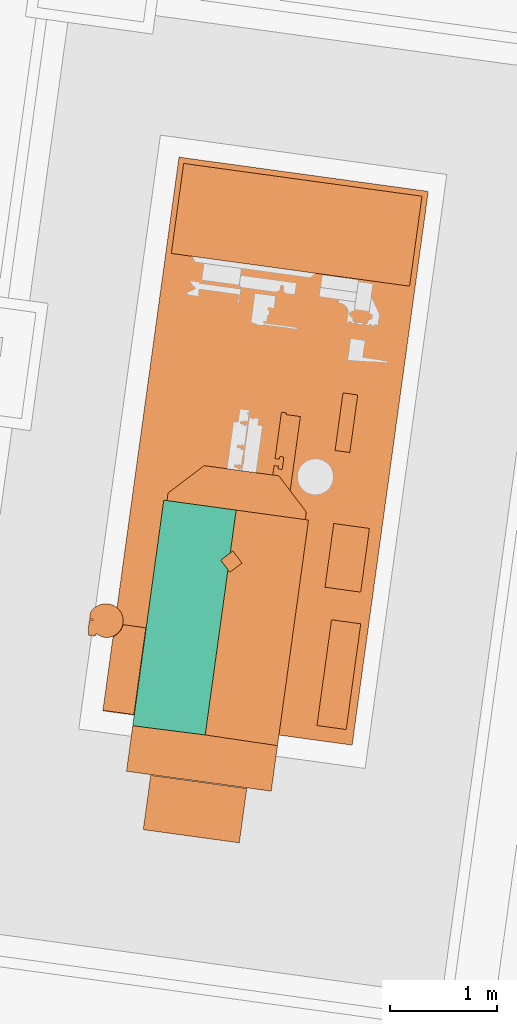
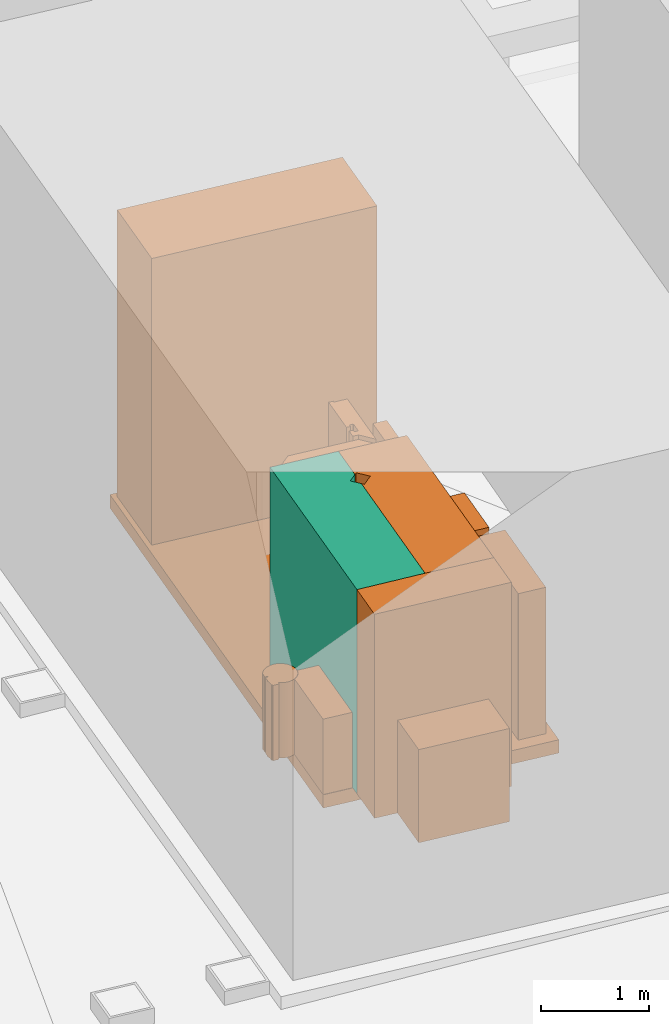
# Not in any storey, part 48 of 75: 12 proxies, 1 compressor.
"""IFC4 model written with IfcOpenShell, lengths in metres."""

from ifc_helpers import new_model, si_unit, direction, origin_with_axes, place, context, subcontext, project, spatial, triangles, element, aggregate, save


model = new_model("IFC4")

# Units and contexts
model_context = context("Model", 3, precision=1e-05, world=origin_with_axes(), true_north=direction((0.0, 1.0)))
body_context = subcontext(model_context, "Body", "Model", "MODEL_VIEW")
ifc_project = project(units=[si_unit("AREAUNIT", "SQUARE_METRE"), si_unit("VOLUMEUNIT", "CUBIC_METRE"), si_unit("LENGTHUNIT", "METRE")], contexts=[model_context])

# Site
site_placement = place(None, origin_with_axes())
site = spatial("IfcSite", under=ifc_project, at=site_placement, Name="Parcela industrial Jinhong")

# Compressor, proxies
compressor_placement = place(site_placement, origin_with_axes())
compressor = element("IfcCompressor", 1, at=compressor_placement, inside=site, Name="Compresor de aire AC1001A · Carcasa principal · región CAD 1", ObjectType="Envolvente de equipo", PredefinedType="USERDEFINED", context=body_context, shape_type="Tessellation", body=[
    triangles([(49.52282, 73.229642, 3.95), (48.846977, 73.32256, 3.95), (49.467834, 72.829704, 3.95), (48.846977, 73.32256, 1.65), (49.52282, 73.229642, 1.65), (49.467834, 72.829704, 1.65), (48.557326, 71.215778, 3.95), (49.234108, 71.129696, 3.95), (49.234108, 71.129696, 1.65), (48.557326, 71.215778, 1.65), (49.378698, 72.762115, 3.95), (49.446287, 72.672978, 3.95), (49.446287, 72.672978, 1.65), (49.378698, 72.762115, 1.65)], [[1, 2, 3], [4, 5, 6], [2, 7, 8], [9, 10, 4], [8, 12, 11], [13, 9, 14], [3, 2, 11], [4, 6, 14], [2, 8, 11], [14, 9, 4], [4, 10, 7], [4, 7, 2], [10, 9, 8], [10, 8, 7], [9, 13, 12], [9, 12, 8], [11, 13, 14], [11, 12, 13], [14, 6, 3], [14, 3, 11], [6, 5, 1], [1, 3, 6], [5, 4, 2], [5, 2, 1]], closed=True),
])
proxy_1_placement = place(compressor_placement, origin_with_axes())
proxy_1 = element("IfcBuildingElementProxy", 2, at=proxy_1_placement, Name="Compresor de aire AC1001A · Envolvente del bastidor de referencia", context=body_context, shape_type="Tessellation", body=[
    triangles([(48.98917, 76.526351, 1.65), (48.278186, 71.354997, 1.65), (50.606286, 71.034918, 1.65), (48.98917, 76.526351, 1.5), (50.606286, 71.034918, 1.5), (48.278186, 71.354997, 1.5), (51.31727, 76.206272, 1.65), (51.31727, 76.206272, 1.5)], [[1, 2, 3], [4, 5, 6], [3, 7, 1], [5, 4, 8], [7, 5, 8], [5, 7, 3], [8, 4, 1], [7, 8, 1], [2, 4, 6], [4, 2, 1], [6, 5, 3], [6, 3, 2]], closed=True),
])
proxy_2_placement = place(compressor_placement, origin_with_axes())
proxy_2 = element("IfcBuildingElementProxy", 3, at=proxy_2_placement, Name="Compresor de aire AC1001A · Carcasa principal · región CAD 2", context=body_context, shape_type="Tessellation", body=[
    triangles([(50.198761, 73.13671, 3.95), (49.52282, 73.229642, 3.95), (49.90911, 71.029928, 3.95), (49.52282, 73.229642, 1.65), (50.198761, 73.13671, 1.65), (49.90911, 71.029928, 1.65), (49.467834, 72.829704, 3.95), (49.491837, 72.847904, 3.95), (49.491837, 72.847904, 1.65), (49.467834, 72.829704, 1.65), (49.446287, 72.672978, 3.95), (49.234108, 71.129696, 3.95), (49.464487, 72.648976, 3.95), (49.446287, 72.672978, 1.65), (49.464487, 72.648976, 1.65), (49.234108, 71.129696, 1.65), (49.577626, 72.734765, 3.95), (49.577626, 72.734765, 1.65)], [[1, 2, 3], [4, 5, 6], [2, 7, 8], [9, 10, 4], [11, 12, 13], [14, 15, 16], [2, 8, 17], [18, 9, 4], [12, 17, 13], [16, 15, 18], [17, 3, 2], [18, 4, 6], [17, 12, 3], [6, 16, 18], [4, 10, 7], [4, 7, 2], [10, 9, 8], [10, 8, 7], [9, 18, 17], [9, 17, 8], [18, 15, 13], [18, 13, 17], [15, 14, 11], [11, 13, 15], [12, 14, 16], [14, 12, 11], [16, 6, 3], [16, 3, 12], [6, 5, 1], [1, 3, 6], [5, 4, 2], [5, 2, 1]], closed=True),
])
proxy_3_placement = place(compressor_placement, origin_with_axes())
proxy_3 = element("IfcBuildingElementProxy", 4, at=proxy_3_placement, Name="Compresor de aire AC1001A · Cuerpo de equipo · región CAD 3", context=body_context, shape_type="Tessellation", body=[
    triangles([(51.141195, 75.321306, 4.88), (48.919121, 75.627716, 4.88), (48.918998, 75.626825, 4.88), (48.919121, 75.627716, 1.65), (51.141195, 75.321306, 1.65), (48.918998, 75.626825, 1.65), (51.258274, 76.159672, 4.88), (51.140657, 75.324004, 4.88), (51.143223, 75.322844, 4.88), (51.258274, 76.159672, 1.65), (51.143223, 75.322844, 1.65), (51.140657, 75.324004, 1.65), (51.256723, 76.161601, 4.88), (49.034527, 76.46712, 4.88), (51.255722, 76.160931, 4.88), (49.034527, 76.46712, 1.65), (51.256723, 76.161601, 1.65), (51.255722, 76.160931, 1.65), (49.032734, 76.466559, 4.88), (48.917559, 75.628839, 4.88), (49.034173, 76.464544, 4.88), (49.032734, 76.466559, 1.65), (49.034173, 76.464544, 1.65), (48.917559, 75.628839, 1.65), (48.921136, 75.629155, 4.88), (48.921136, 75.629155, 1.65), (51.255477, 76.159148, 4.88), (51.255477, 76.159148, 1.65), (49.035956, 76.464299, 4.88), (49.035956, 76.464299, 1.65)], [[1, 2, 3], [4, 5, 6], [7, 8, 9], [10, 11, 12], [13, 14, 15], [16, 17, 18], [19, 20, 21], [22, 23, 24], [1, 25, 2], [4, 26, 5], [8, 7, 27], [12, 28, 10], [15, 14, 27], [16, 18, 28], [20, 29, 21], [24, 23, 30], [8, 25, 1], [5, 26, 12], [8, 27, 14], [16, 28, 12], [29, 20, 25], [26, 24, 30], [8, 14, 29], [30, 16, 12], [25, 8, 29], [26, 30, 12], [5, 12, 8], [5, 8, 1], [12, 11, 9], [12, 9, 8], [11, 10, 7], [7, 9, 11], [27, 10, 28], [27, 7, 10], [28, 18, 15], [28, 15, 27], [18, 17, 13], [13, 15, 18], [17, 16, 14], [17, 14, 13], [16, 30, 29], [16, 29, 14], [30, 23, 21], [30, 21, 29], [23, 22, 19], [19, 21, 23], [20, 22, 24], [22, 20, 19], [25, 24, 26], [25, 20, 24], [26, 4, 2], [26, 2, 25], [3, 4, 6], [4, 3, 2], [6, 5, 1], [1, 3, 6]], closed=True),
])
proxy_4_placement = place(compressor_placement, origin_with_axes())
proxy_4 = element("IfcBuildingElementProxy", 5, at=proxy_4_placement, Name="Compresor de aire AC1001A · Carcasa principal · región CAD 4", context=body_context, shape_type="Tessellation", body=[
    triangles([(49.90911, 71.029928, 3.95), (48.49884, 70.79038, 3.95), (49.850624, 70.60453, 3.95), (48.49884, 70.79038, 1.65), (49.90911, 71.029928, 1.65), (49.850624, 70.60453, 1.65), (48.557326, 71.215778, 3.95), (49.234108, 71.129696, 3.95), (49.234108, 71.129696, 1.65), (48.557326, 71.215778, 1.65)], [[1, 2, 3], [4, 5, 6], [8, 7, 1], [9, 5, 10], [2, 1, 7], [10, 5, 4], [8, 5, 9], [8, 1, 5], [7, 9, 10], [7, 8, 9], [10, 4, 2], [10, 2, 7], [3, 4, 6], [4, 3, 2], [6, 5, 1], [1, 3, 6]], closed=True),
])
proxy_5_placement = place(compressor_placement, origin_with_axes())
proxy_5 = element("IfcBuildingElementProxy", 6, at=proxy_5_placement, Name="Compresor de aire AC1001A · Cuerpo de equipo · región CAD 5", context=body_context, shape_type="Tessellation", body=[
    triangles([(50.168546, 73.140864, 3.75), (48.886805, 73.389055, 3.75), (48.877094, 73.31842, 3.75), (48.886805, 73.389055, 1.65), (50.168546, 73.140864, 1.65), (48.877094, 73.31842, 1.65), (49.922085, 73.54934, 3.75), (50.178257, 73.2115, 3.75), (50.178257, 73.2115, 1.65), (49.922085, 73.54934, 1.65), (49.224646, 73.645227, 3.75), (49.224646, 73.645227, 1.65)], [[1, 2, 3], [4, 5, 6], [1, 8, 7], [9, 5, 10], [7, 11, 2], [4, 12, 10], [7, 2, 1], [5, 4, 10], [5, 9, 8], [5, 8, 1], [7, 9, 10], [7, 8, 9], [11, 10, 12], [11, 7, 10], [12, 4, 2], [12, 2, 11], [3, 4, 6], [4, 3, 2], [6, 5, 1], [1, 3, 6]], closed=True),
])
proxy_6_placement = place(compressor_placement, origin_with_axes())
proxy_6 = element("IfcBuildingElementProxy", 7, at=proxy_6_placement, Name="Compresor de aire AC1001A · Cuerpo de equipo · región CAD 6", context=body_context, shape_type="Tessellation", body=[
    triangles([(49.622432, 70.629745, 2.7), (48.725272, 70.753092, 2.7), (48.65544, 70.24517, 2.7), (48.725272, 70.753092, 1.65), (49.622432, 70.629745, 1.65), (48.65544, 70.24517, 1.65), (49.5526, 70.121823, 2.7), (49.5526, 70.121823, 1.65)], [[1, 2, 3], [4, 5, 6], [7, 1, 3], [6, 5, 8], [7, 6, 8], [7, 3, 6], [8, 5, 1], [8, 1, 7], [5, 4, 2], [5, 2, 1], [3, 4, 6], [4, 3, 2]], closed=True),
])
proxy_7_placement = place(compressor_placement, origin_with_axes())
proxy_7 = element("IfcBuildingElementProxy", 8, at=proxy_7_placement, Name="Compresor de aire AC1001A · Cuerpo de equipo · región CAD 7", context=body_context, shape_type="Tessellation", body=[
    triangles([(50.550984, 71.181111, 3.3), (50.278721, 71.217635, 3.3), (50.549969, 71.180342, 3.3), (50.278721, 71.217635, 1.65), (50.550984, 71.181111, 1.65), (50.549969, 71.180342, 1.65), (50.686398, 72.166046, 3.3), (50.683175, 72.168306, 3.3), (50.683175, 72.168306, 1.65), (50.686398, 72.166046, 1.65), (50.416286, 72.205, 3.3), (50.413465, 72.20357, 3.3), (50.413465, 72.20357, 1.65), (50.416286, 72.205, 1.65), (50.278051, 71.218636, 3.3), (50.278051, 71.218636, 1.65)], [[1, 2, 3], [4, 5, 6], [1, 7, 8], [9, 10, 5], [8, 11, 12], [13, 14, 9], [15, 2, 12], [4, 16, 13], [8, 2, 1], [5, 4, 9], [8, 12, 2], [4, 13, 9], [5, 10, 7], [5, 7, 1], [10, 9, 8], [10, 8, 7], [11, 9, 14], [11, 8, 9], [14, 13, 12], [14, 12, 11], [13, 16, 15], [13, 15, 12], [16, 4, 2], [16, 2, 15], [3, 4, 6], [4, 3, 2], [6, 5, 1], [1, 3, 6]], closed=True),
])
proxy_8_placement = place(compressor_placement, origin_with_axes())
proxy_8 = element("IfcBuildingElementProxy", 9, at=proxy_8_placement, Name="Compresor de aire AC1001A · Cuerpo de equipo · región CAD 8", context=body_context, shape_type="Tessellation", body=[
    triangles([(48.679561, 72.130554, 2.5), (48.278772, 71.359256, 2.5), (48.568051, 71.319484, 2.5), (48.679561, 72.130554, 1.65), (48.568051, 71.319484, 1.65), (48.278772, 71.359256, 1.65), (48.468939, 72.168294, 2.5), (48.46513, 72.153071, 2.5), (48.467754, 72.159675, 2.5), (48.46513, 72.153071, 1.65), (48.468939, 72.168294, 1.65), (48.467754, 72.159675, 1.65), (48.379103, 72.050835, 2.5), (48.373595, 72.048949, 2.5), (48.373595, 72.048949, 1.65), (48.379103, 72.050835, 1.65), (48.460538, 72.138763, 2.5), (48.460538, 72.138763, 1.65), (48.392375, 72.057792, 2.5), (48.392375, 72.057792, 1.65), (48.404986, 72.066556, 2.5), (48.404986, 72.066556, 1.65), (48.446996, 72.110746, 2.5), (48.446996, 72.110746, 1.65), (48.416705, 72.075443, 2.5), (48.416705, 72.075443, 1.65), (48.438267, 72.097916, 2.5), (48.438267, 72.097916, 1.65), (48.427878, 72.086222, 2.5), (48.427878, 72.086222, 1.65)], [[1, 2, 3], [4, 5, 6], [7, 8, 9], [10, 11, 12], [13, 14, 2], [6, 15, 16], [2, 1, 9], [6, 12, 4], [17, 9, 8], [12, 18, 10], [19, 13, 2], [6, 16, 20], [2, 9, 17], [18, 12, 6], [21, 19, 2], [6, 20, 22], [2, 17, 23], [24, 18, 6], [25, 21, 2], [6, 22, 26], [2, 23, 27], [28, 24, 6], [25, 2, 29], [26, 30, 6], [2, 27, 29], [30, 28, 6], [9, 4, 12], [9, 1, 4], [12, 11, 7], [7, 9, 12], [11, 10, 8], [11, 8, 7], [10, 18, 17], [10, 17, 8], [18, 24, 23], [18, 23, 17], [24, 28, 27], [24, 27, 23], [28, 30, 29], [28, 29, 27], [30, 26, 25], [30, 25, 29], [26, 22, 21], [26, 21, 25], [22, 20, 19], [22, 19, 21], [20, 16, 13], [20, 13, 19], [16, 15, 14], [16, 14, 13], [15, 6, 2], [15, 2, 14], [6, 5, 3], [6, 3, 2], [5, 4, 1], [1, 3, 5]], closed=True),
])
proxy_9_placement = place(compressor_placement, origin_with_axes())
proxy_9 = element("IfcBuildingElementProxy", 10, at=proxy_9_placement, Name="Compresor de aire AC1001A · Cuerpo de equipo · región CAD 9", context=body_context, shape_type="Tessellation", body=[
    triangles([(50.767808, 73.058474, 3.15), (50.434643, 73.10428, 3.15), (50.686018, 72.463571, 3.15), (50.434643, 73.10428, 1.65), (50.767808, 73.058474, 1.65), (50.686018, 72.463571, 1.65), (50.352852, 72.509376, 3.15), (50.352852, 72.509376, 1.65)], [[1, 2, 3], [4, 5, 6], [2, 7, 3], [6, 8, 4], [4, 8, 7], [4, 7, 2], [8, 6, 3], [8, 3, 7], [6, 5, 1], [1, 3, 6], [5, 4, 2], [5, 2, 1]], closed=True),
])
proxy_10_placement = place(compressor_placement, origin_with_axes())
proxy_10 = element("IfcBuildingElementProxy", 11, at=proxy_10_placement, Name="Compresor de aire AC1001A · Cuerpo de equipo · región CAD 11", context=body_context, shape_type="Tessellation", body=[
    triangles([(49.992216, 74.136696, 3.8), (49.991496, 74.137164, 3.8), (49.945825, 74.143443, 3.8), (49.945825, 74.143443, 1.65), (49.991496, 74.137164, 1.65), (49.992216, 74.136696, 1.65), (49.88629, 73.710416, 3.8), (49.925918, 73.704968, 3.8), (49.925918, 73.704968, 1.65), (49.88629, 73.710416, 1.65), (49.917037, 73.640376, 3.8), (49.87741, 73.645824, 3.8), (49.914313, 73.620562, 3.8), (49.87741, 73.645824, 1.65), (49.917037, 73.640376, 1.65), (49.914313, 73.620562, 1.65), (49.86522, 73.557158, 3.8), (49.922085, 73.54934, 3.8), (49.922085, 73.54934, 1.65), (49.86522, 73.557158, 1.65), (50.122816, 74.103363, 3.8), (49.996306, 74.120756, 3.8), (50.027527, 73.410282, 3.8), (49.996306, 74.120756, 1.65), (50.122816, 74.103363, 1.65), (50.027527, 73.410282, 1.65), (49.996428, 74.121647, 3.8), (49.984342, 74.123309, 3.8), (49.984342, 74.123309, 1.65), (49.996428, 74.121647, 1.65), (49.986258, 74.124762, 3.8), (49.986258, 74.124762, 1.65), (49.928642, 73.724782, 3.8), (49.928642, 73.724782, 1.65), (49.919525, 73.613688, 3.8), (49.919525, 73.613688, 1.65), (49.935516, 73.729994, 3.8), (49.935516, 73.729994, 1.65), (49.963948, 73.726085, 3.8), (49.963948, 73.726085, 1.65), (49.947958, 73.609779, 3.8), (49.947958, 73.609779, 1.65), (49.968269, 73.719334, 3.8), (49.968269, 73.719334, 1.65), (49.95394, 73.615114, 3.8), (49.95394, 73.615114, 1.65)], [[1, 2, 3], [4, 5, 6], [3, 7, 8], [9, 10, 4], [11, 12, 13], [14, 15, 16], [12, 17, 18], [19, 20, 14], [21, 22, 23], [24, 25, 26], [22, 27, 28], [29, 30, 24], [28, 31, 1], [6, 32, 29], [3, 8, 33], [34, 9, 4], [13, 12, 35], [16, 36, 14], [18, 23, 12], [19, 14, 26], [23, 22, 28], [26, 29, 24], [28, 1, 3], [4, 6, 29], [3, 33, 37], [38, 34, 4], [35, 12, 23], [26, 14, 36], [23, 28, 3], [26, 4, 29], [3, 37, 39], [40, 38, 4], [41, 35, 23], [26, 36, 42], [39, 43, 3], [40, 4, 44], [45, 41, 23], [26, 42, 46], [23, 3, 43], [44, 4, 26], [45, 23, 43], [44, 26, 46], [4, 10, 7], [4, 7, 3], [10, 9, 8], [10, 8, 7], [9, 34, 33], [9, 33, 8], [37, 34, 38], [37, 33, 34], [39, 38, 40], [39, 37, 38], [40, 44, 43], [40, 43, 39], [44, 46, 45], [44, 45, 43], [46, 42, 41], [46, 41, 45], [42, 36, 35], [42, 35, 41], [36, 16, 13], [36, 13, 35], [16, 15, 11], [11, 13, 16], [15, 14, 12], [15, 12, 11], [14, 20, 17], [14, 17, 12], [20, 19, 18], [20, 18, 17], [19, 26, 23], [19, 23, 18], [26, 25, 21], [21, 23, 26], [25, 24, 22], [25, 22, 21], [24, 30, 27], [24, 27, 22], [30, 29, 28], [30, 28, 27], [31, 29, 32], [31, 28, 29], [32, 6, 1], [32, 1, 31], [6, 5, 2], [6, 2, 1], [5, 4, 3], [5, 3, 2]], closed=True),
])
proxy_11_placement = place(compressor_placement, origin_with_axes())
proxy_11 = element("IfcBuildingElementProxy", 12, at=proxy_11_placement, Name="Compresor de aire AC1001A · Cuerpo de equipo · región CAD 12", context=body_context, shape_type="Tessellation", body=[
    triangles([(50.658496, 74.305182, 3.25), (50.446928, 73.786868, 3.25), (50.584633, 73.767935, 3.25), (50.658496, 74.305182, 1.65), (50.584633, 73.767935, 1.65), (50.446928, 73.786868, 1.65), (50.520792, 74.324114, 3.25), (50.520792, 74.324114, 1.65)], [[1, 2, 3], [4, 5, 6], [2, 1, 7], [6, 8, 4], [7, 4, 8], [7, 1, 4], [8, 6, 2], [8, 2, 7], [6, 5, 3], [6, 3, 2], [5, 4, 1], [1, 3, 5]], closed=True),
])
proxy_12_placement = place(compressor_placement, origin_with_axes())
proxy_12 = element("IfcBuildingElementProxy", 13, at=proxy_12_placement, Name="Compresor de aire AC1001A · Cuerpo de equipo · región CAD 13", context=body_context, shape_type="Tessellation", body=[
    triangles([(48.21625, 72.078474, 2.5), (48.204907, 72.059845, 2.5), (48.213526, 72.05866, 2.5), (48.21625, 72.078474, 1.65), (48.213526, 72.05866, 1.65), (48.204907, 72.059845, 1.65), (48.250809, 72.05525, 2.5), (48.232864, 72.065692, 2.5), (48.232864, 72.065692, 1.65), (48.250809, 72.05525, 1.65), (48.291181, 72.042735, 2.5), (48.269914, 72.047375, 2.5), (48.269914, 72.047375, 1.65), (48.291181, 72.042735, 1.65), (48.319845, 72.04051, 2.5), (48.305843, 72.040719, 2.5), (48.305843, 72.040719, 1.65), (48.319845, 72.04051, 1.65), (48.349254, 72.044441, 2.5), (48.334884, 72.041975, 2.5), (48.334884, 72.041975, 1.65), (48.349254, 72.044441, 1.65), (48.376882, 72.053765, 2.5), (48.363842, 72.048492, 2.5), (48.363842, 72.048492, 1.65), (48.376882, 72.053765, 1.65), (48.402642, 72.068595, 2.5), (48.390153, 72.060722, 2.5), (48.390153, 72.060722, 1.65), (48.402642, 72.068595, 1.65), (48.435937, 72.100053, 2.5), (48.425533, 72.08826, 2.5), (48.425533, 72.08826, 1.65), (48.435937, 72.100053, 1.65), (48.451588, 72.125054, 2.5), (48.444543, 72.111992, 2.5), (48.444543, 72.111992, 1.65), (48.451588, 72.125054, 1.65), (48.462554, 72.153425, 2.5), (48.457963, 72.139117, 2.5), (48.457963, 72.139117, 1.65), (48.462554, 72.153425, 1.65), (48.467928, 72.199119, 2.5), (48.46761, 72.184324, 2.5), (48.46761, 72.184324, 1.65), (48.467928, 72.199119, 1.65), (48.464232, 72.229505, 2.5), (48.466476, 72.214258, 2.5), (48.466476, 72.214258, 1.65), (48.464232, 72.229505, 1.65), (48.454371, 72.259831, 2.5), (48.460205, 72.244998, 2.5), (48.460205, 72.244998, 1.65), (48.454371, 72.259831, 1.65), (48.438759, 72.286506, 2.5), (48.4474, 72.273003, 2.5), (48.4474, 72.273003, 1.65), (48.438759, 72.286506, 1.65), (48.405725, 72.320825, 2.5), (48.429103, 72.29924, 2.5), (48.429103, 72.29924, 1.65), (48.405725, 72.320825, 1.65), (48.379077, 72.337712, 2.5), (48.392908, 72.329653, 2.5), (48.392908, 72.329653, 1.65), (48.379077, 72.337712, 1.65), (48.349008, 72.348811, 2.5), (48.364208, 72.344097, 2.5), (48.364208, 72.344097, 1.65), (48.349008, 72.348811, 1.65), (48.31733, 72.354075, 2.5), (48.333799, 72.352719, 2.5), (48.333799, 72.352719, 1.65), (48.31733, 72.354075, 1.65), (48.301545, 72.354529, 2.5), (48.284722, 72.353309, 2.5), (48.284722, 72.353309, 1.65), (48.301545, 72.354529, 1.65), (48.238233, 72.340421, 2.5), (48.253066, 72.346255, 2.5), (48.253066, 72.346255, 1.65), (48.238233, 72.340421, 1.65), (48.209652, 72.324162, 2.5), (48.224047, 72.332681, 2.5), (48.224047, 72.332681, 1.65), (48.209652, 72.324162, 1.65), (48.182684, 72.299808, 2.5), (48.195881, 72.312832, 2.5), (48.195881, 72.312832, 1.65), (48.182684, 72.299808, 1.65), (48.16106, 72.270278, 2.5), (48.171158, 72.286454, 2.5), (48.171158, 72.286454, 1.65), (48.16106, 72.270278, 1.65), (48.154634, 72.217663, 2.5), (48.158421, 72.245204, 2.5), (48.154073, 72.219457, 2.5), (48.158421, 72.245204, 1.65), (48.154634, 72.217663, 1.65), (48.154073, 72.219457, 1.65), (48.183604, 72.211056, 2.5), (48.157186, 72.216404, 2.5), (48.157186, 72.216404, 1.65), (48.183604, 72.211056, 1.65), (48.181759, 72.204244, 2.5), (48.15577, 72.206101, 2.5), (48.152972, 72.205577, 2.5), (48.152972, 72.205577, 1.65), (48.15577, 72.206101, 1.65), (48.181759, 72.204244, 1.65), (48.145876, 72.153963, 2.5), (48.151826, 72.20311, 2.5), (48.151826, 72.20311, 1.65), (48.145876, 72.153963, 1.65), (48.144838, 72.152288, 2.5), (48.139687, 72.152997, 2.5), (48.144874, 72.126847, 2.5), (48.139687, 72.152997, 1.65), (48.144838, 72.152288, 1.65), (48.144874, 72.126847, 1.65), (48.145946, 72.103079, 2.5), (48.141206, 72.068603, 2.5), (48.150717, 72.067296, 2.5), (48.145946, 72.103079, 1.65), (48.150717, 72.067296, 1.65), (48.141206, 72.068603, 1.65), (48.203967, 72.05301, 2.5), (48.149777, 72.06046, 2.5), (48.149777, 72.06046, 1.65), (48.203967, 72.05301, 1.65), (48.145801, 72.114505, 2.5), (48.145801, 72.114505, 1.65), (48.16173, 72.269278, 2.5), (48.16173, 72.269278, 1.65), (48.190732, 72.205635, 2.5), (48.190732, 72.205635, 1.65), (48.190086, 72.20754, 2.5), (48.190086, 72.20754, 1.65)], [[1, 2, 3], [4, 5, 6], [8, 7, 1], [9, 4, 10], [12, 11, 7], [13, 10, 14], [16, 15, 11], [17, 14, 18], [20, 19, 15], [21, 18, 22], [24, 23, 19], [25, 22, 26], [28, 27, 23], [29, 26, 30], [32, 31, 27], [33, 30, 34], [36, 35, 31], [37, 34, 38], [40, 39, 35], [41, 38, 42], [44, 43, 39], [45, 42, 46], [48, 47, 43], [49, 46, 50], [52, 51, 47], [53, 50, 54], [56, 55, 51], [57, 54, 58], [60, 59, 55], [61, 58, 62], [64, 63, 59], [65, 62, 66], [68, 67, 63], [69, 66, 70], [72, 71, 67], [73, 70, 74], [71, 75, 76], [77, 78, 74], [80, 79, 76], [81, 77, 82], [84, 83, 79], [85, 82, 86], [88, 87, 83], [89, 86, 90], [92, 91, 87], [93, 90, 94], [95, 96, 97], [98, 99, 100], [102, 101, 95], [103, 99, 104], [105, 106, 107], [108, 109, 110], [112, 111, 107], [113, 108, 114], [115, 116, 117], [118, 119, 120], [121, 122, 123], [124, 125, 126], [128, 127, 123], [129, 125, 130], [7, 11, 1], [10, 4, 14], [15, 19, 11], [18, 14, 22], [23, 27, 19], [26, 22, 30], [31, 35, 27], [34, 30, 38], [39, 43, 35], [42, 38, 46], [47, 51, 43], [50, 46, 54], [55, 59, 51], [58, 54, 62], [63, 67, 59], [66, 62, 70], [67, 71, 76], [77, 74, 70], [79, 83, 76], [82, 77, 86], [87, 91, 83], [90, 86, 94], [95, 101, 96], [98, 104, 99], [105, 107, 111], [114, 108, 110], [115, 117, 111], [119, 114, 120], [123, 131, 121], [132, 125, 124], [127, 2, 123], [125, 6, 130], [11, 19, 1], [14, 4, 22], [27, 35, 19], [30, 22, 38], [43, 51, 35], [46, 38, 54], [59, 67, 51], [62, 54, 70], [67, 76, 83], [86, 77, 70], [83, 91, 133], [134, 94, 86], [133, 96, 101], [104, 98, 134], [111, 135, 105], [114, 110, 136], [117, 131, 111], [120, 114, 132], [123, 2, 131], [125, 132, 6], [19, 35, 1], [22, 4, 38], [35, 51, 67], [70, 54, 38], [67, 83, 133], [134, 86, 70], [101, 137, 133], [138, 104, 134], [135, 111, 131], [132, 114, 136], [2, 1, 131], [6, 132, 4], [1, 35, 67], [70, 38, 4], [67, 133, 137], [138, 134, 70], [135, 131, 1], [4, 132, 136], [135, 67, 137], [136, 138, 70], [67, 135, 1], [4, 136, 70], [5, 4, 1], [1, 3, 5], [8, 4, 9], [8, 1, 4], [7, 9, 10], [7, 8, 9], [12, 10, 13], [12, 7, 10], [11, 13, 14], [11, 12, 13], [16, 14, 17], [16, 11, 14], [15, 17, 18], [15, 16, 17], [20, 18, 21], [20, 15, 18], [19, 21, 22], [19, 20, 21], [24, 22, 25], [24, 19, 22], [23, 25, 26], [23, 24, 25], [28, 26, 29], [28, 23, 26], [27, 29, 30], [27, 28, 29], [32, 30, 33], [32, 27, 30], [31, 33, 34], [31, 32, 33], [34, 37, 36], [34, 36, 31], [35, 37, 38], [35, 36, 37], [38, 41, 40], [38, 40, 35], [39, 41, 42], [39, 40, 41], [42, 45, 44], [42, 44, 39], [43, 45, 46], [43, 44, 45], [46, 49, 48], [46, 48, 43], [47, 49, 50], [47, 48, 49], [50, 53, 52], [50, 52, 47], [51, 53, 54], [51, 52, 53], [54, 57, 56], [54, 56, 51], [55, 57, 58], [55, 56, 57], [58, 61, 60], [58, 60, 55], [59, 61, 62], [59, 60, 61], [64, 62, 65], [64, 59, 62], [63, 65, 66], [63, 64, 65], [68, 66, 69], [68, 63, 66], [67, 69, 70], [67, 68, 69], [72, 70, 73], [72, 67, 70], [71, 73, 74], [71, 72, 73], [75, 74, 78], [75, 71, 74], [78, 77, 76], [78, 76, 75], [80, 77, 81], [80, 76, 77], [79, 81, 82], [79, 80, 81], [84, 82, 85], [84, 79, 82], [83, 85, 86], [83, 84, 85], [88, 86, 89], [88, 83, 86], [87, 89, 90], [87, 88, 89], [90, 93, 92], [90, 92, 87], [91, 93, 94], [91, 92, 93], [94, 134, 133], [94, 133, 91], [134, 98, 96], [134, 96, 133], [97, 98, 100], [98, 97, 96], [100, 99, 95], [95, 97, 100], [102, 99, 103], [102, 95, 99], [101, 103, 104], [101, 102, 103], [137, 104, 138], [137, 101, 104], [138, 136, 135], [138, 135, 137], [136, 110, 105], [136, 105, 135], [110, 109, 106], [110, 106, 105], [109, 108, 107], [109, 107, 106], [108, 113, 112], [108, 112, 107], [111, 113, 114], [111, 112, 113], [114, 119, 115], [114, 115, 111], [119, 118, 116], [119, 116, 115], [117, 118, 120], [118, 117, 116], [120, 132, 131], [120, 131, 117], [132, 124, 121], [132, 121, 131], [122, 124, 126], [124, 122, 121], [126, 125, 123], [126, 123, 122], [125, 129, 128], [125, 128, 123], [127, 129, 130], [127, 128, 129], [130, 6, 2], [130, 2, 127], [6, 5, 3], [6, 3, 2]], closed=True),
])
aggregate(compressor, [proxy_1, proxy_2, proxy_3, proxy_4, proxy_5, proxy_6, proxy_7, proxy_8, proxy_9, proxy_10, proxy_11, proxy_12])

save(model, "model.ifc")
